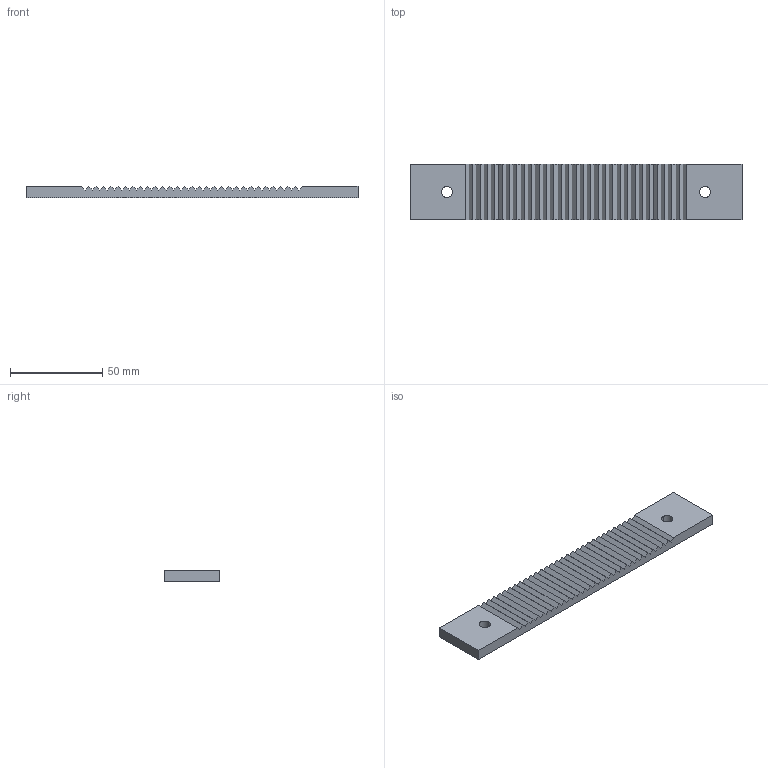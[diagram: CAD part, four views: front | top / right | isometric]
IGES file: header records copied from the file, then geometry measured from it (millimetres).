
Start section: 3D InterOp IGES (v. 2019 1.0.2), Spatial Corp. Copyright (c) 1999-2017.
Global section: file name: PD180306T6.igs; native system: Spatial Corp.; preprocessor: 3D InterOp GENERIC/IGES 3.0; author: Noname; organization: Noname; date: 20210211.094945; units: millimetre
Bounding box: 180 x 30 x 6 mm (x, y, z)
Surface area: 14684.3 mm2 (no closed solid volume)
Topology: 0 solids, 0 shells, 71 faces, 414 edges, 414 vertices
Faces by surface type: extrusion 67, revolution 4
